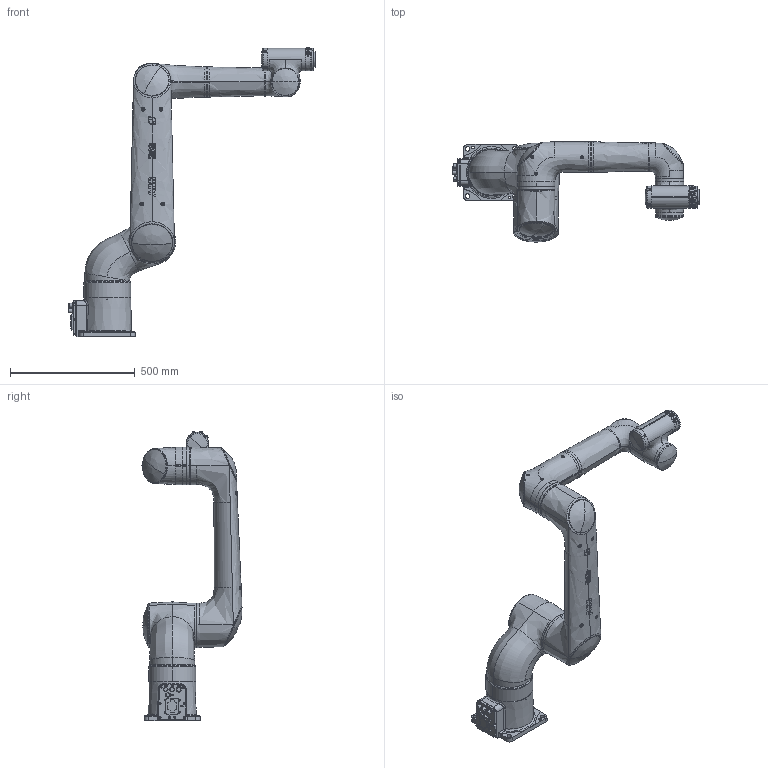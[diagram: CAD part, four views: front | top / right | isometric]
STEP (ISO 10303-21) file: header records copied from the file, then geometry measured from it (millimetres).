
FILE_DESCRIPTION (( 'STEP AP214' ), '1' );
FILE_NAME ('CRB1920_30kg-1350_OmniCore_rev00_Assembly.STEP', '2026-03-06T03:33:17', ( '' ), ( '' ), 'SwSTEP 2.0', 'SolidWorks 2022', '' );
FILE_SCHEMA (( 'AUTOMOTIVE_DESIGN' ));
Length unit declared in the file: millimetre
Products named in the file (8): CRB1920_30kg-1350_OmniCore_rev00_Link5_CAD; CRB1920_30kg-1350_OmniCore_rev00_Link3_CAD; CRB1920_30kg-1350_OmniCore_rev00_Link6_CAD; CRB1920_30kg-1350_OmniCore_rev00_Link2_CAD; CRB1920_30kg-1350_OmniCore_rev00_Link0_CAD; CRB1920_30kg-1350_OmniCore_rev00_Assembly; CRB1920_30kg-1350_OmniCore_rev00_Link4_CAD; CRB1920_30kg-1350_OmniCore_rev00_Link1_CAD
Assembly tree (7 placements, depth 2):
  CRB1920_30kg-1350_OmniCore_rev00_Assembly
    CRB1920_30kg-1350_OmniCore_rev00_Link0_CAD
    CRB1920_30kg-1350_OmniCore_rev00_Link1_CAD
    CRB1920_30kg-1350_OmniCore_rev00_Link2_CAD
    CRB1920_30kg-1350_OmniCore_rev00_Link3_CAD
    CRB1920_30kg-1350_OmniCore_rev00_Link4_CAD
    CRB1920_30kg-1350_OmniCore_rev00_Link5_CAD
    CRB1920_30kg-1350_OmniCore_rev00_Link6_CAD
Bounding box: 990 x 401.53 x 1161.6 mm (x, y, z)
Volume: 42895435.4 mm3; surface area: 1482863.9 mm2
Topology: 7 solids, 7 shells, 2453 faces, 6300 edges, 4058 vertices
Faces by surface type: bspline 1177, plane 588, cylinder 377, cone 240, torus 69, sphere 2
Entity records: 239710 total; most frequent: CARTESIAN_POINT 187669, ORIENTED_EDGE 12500, DIRECTION 6326, EDGE_CURVE 6250, VERTEX_POINT 4058, B_SPLINE_CURVE_WITH_KNOTS 3548, EDGE_LOOP 2718, ADVANCED_FACE 2453
